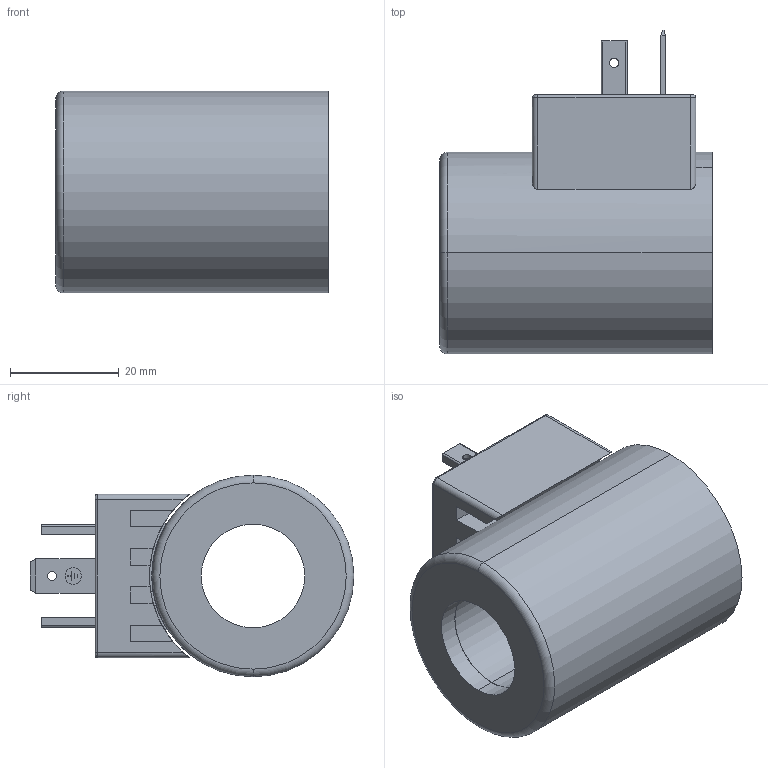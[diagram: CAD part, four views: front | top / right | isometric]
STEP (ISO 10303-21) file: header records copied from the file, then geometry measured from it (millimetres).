
FILE_DESCRIPTION (( 'STEP AP214' ), '1' );
FILE_NAME ('VDE37_19x50.STEP', '2017-04-07T05:15:12', ( '' ), ( '' ), 'SwSTEP 2.0', 'SolidWorks 2016', '' );
FILE_SCHEMA (( 'AUTOMOTIVE_DESIGN' ));
Length unit declared in the file: millimetre
Products named in the file (1): VDE37_19x50
Bounding box: 50 x 59.4 x 37 mm (x, y, z)
Volume: 48372.2 mm3; surface area: 27053.9 mm2
Topology: 6 solids, 6 shells, 199 faces, 507 edges, 330 vertices
Faces by surface type: plane 90, cylinder 78, bspline 20, cone 9, torus 2
Entity records: 10467 total; most frequent: CARTESIAN_POINT 3486, ORIENTED_EDGE 1014, DIRECTION 915, EDGE_CURVE 507, VERTEX_POINT 330, AXIS2_PLACEMENT_3D 323, LINE 269, VECTOR 269
